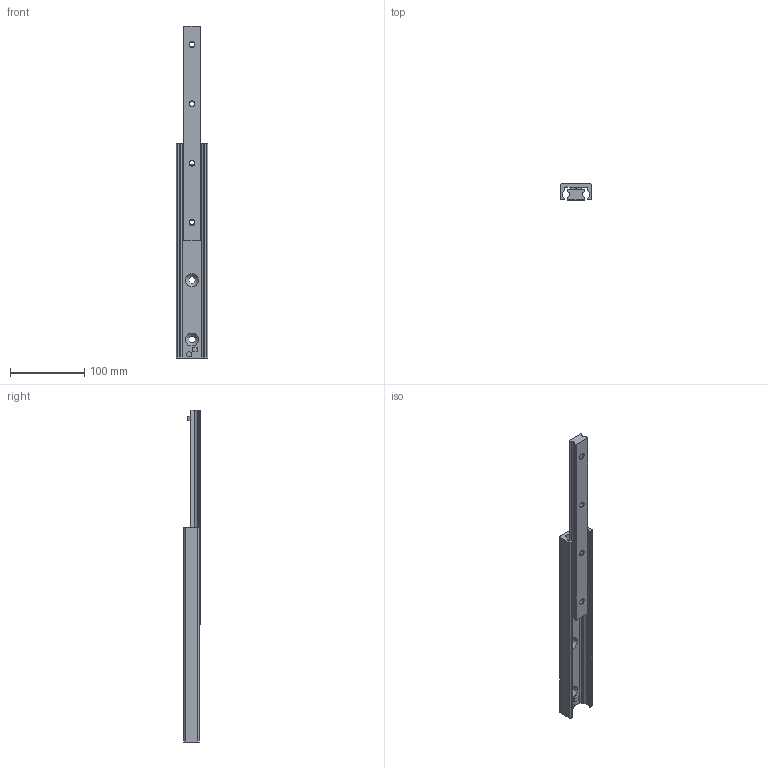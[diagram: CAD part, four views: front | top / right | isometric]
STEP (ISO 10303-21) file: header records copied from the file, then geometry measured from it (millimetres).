
FILE_DESCRIPTION(('STEP AP214'),'1');
FILE_NAME('rail_asn43-290_01.stp','2017-06-06T10:17:37',('TraceParts'),('TraceParts S.A.'),'Spatial InterOp 3D',' ',' ');
FILE_SCHEMA(('automotive_design'));
Length unit declared in the file: millimetre
Products named in the file (2): rail_asn43-290_01_1; rail_asn43-290_01_2
Bounding box: 43 x 22.01 x 448 mm (x, y, z)
Volume: 176645.3 mm3; surface area: 69600.6 mm2
Topology: 2 solids, 2 shells, 117 faces, 300 edges, 192 vertices
Faces by surface type: cylinder 47, plane 46, cone 24
Entity records: 3622 total; most frequent: DIRECTION 656, CARTESIAN_POINT 611, ORIENTED_EDGE 600, EDGE_CURVE 300, AXIS2_PLACEMENT_3D 237, VERTEX_POINT 192, LINE 182, VECTOR 182
